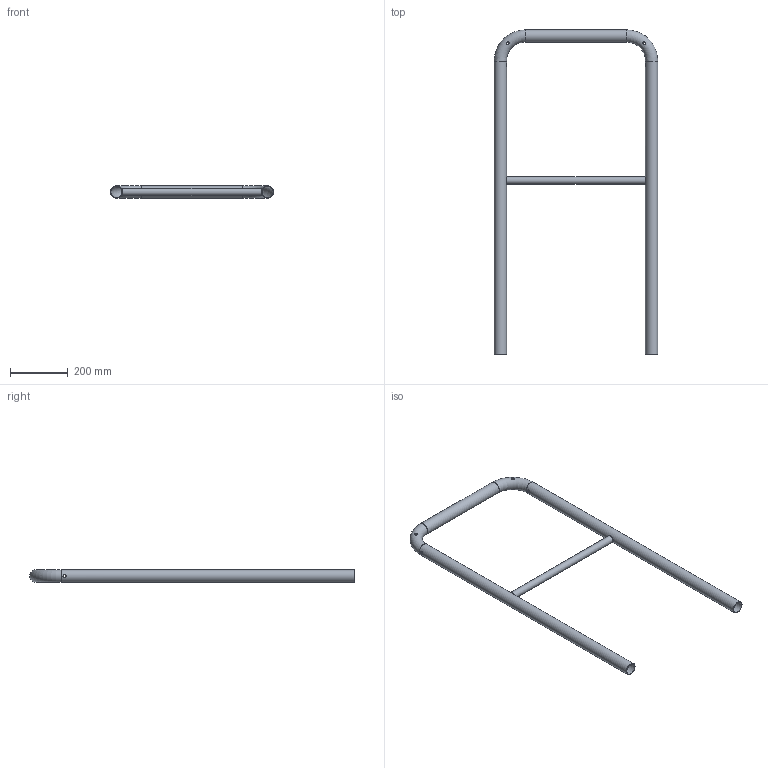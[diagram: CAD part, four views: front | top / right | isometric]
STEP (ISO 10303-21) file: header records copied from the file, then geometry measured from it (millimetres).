
FILE_DESCRIPTION((''),'2;1');
FILE_NAME('S:\Användarkataloger\AndreasA\Mina Inventor filer\Räcken\STEP\modul_ind_600-1100.stp','2010-09-07T13:15:33',('AndreasA'),(''),'Autodesk Inventor 2011','Autodesk Inventor 2011','');
FILE_SCHEMA(('AUTOMOTIVE_DESIGN { 1 0 10303 214 1 1 1 1 }'));
Length unit declared in the file: millimetre
Products named in the file (3): modul_ind_600-1100; handledare_modul_600-1100; mellanliggare_modul_600
Assembly tree (2 placements, depth 2):
  modul_ind_600-1100
    handledare_modul_600-1100
    mellanliggare_modul_600
Bounding box: 565.4 x 1121.2 x 42.4 mm (x, y, z)
Volume: 740412.1 mm3; surface area: 741746.2 mm2
Topology: 2 solids, 2 shells, 24 faces, 64 edges, 40 vertices
Faces by surface type: cylinder 16, torus 4, plane 4
Full cylindrical faces by diameter (mm): 10 x4, 11 x4, 21 x1, 25 x1, 38.4 x3, 42.4 x3
Entity records: 1354 total; most frequent: CARTESIAN_POINT 809, DIRECTION 90, ORIENTED_EDGE 64, EDGE_LOOP 64, AXIS2_PLACEMENT_3D 45, FACE_BOUND 40, VERTEX_POINT 32, EDGE_CURVE 32
